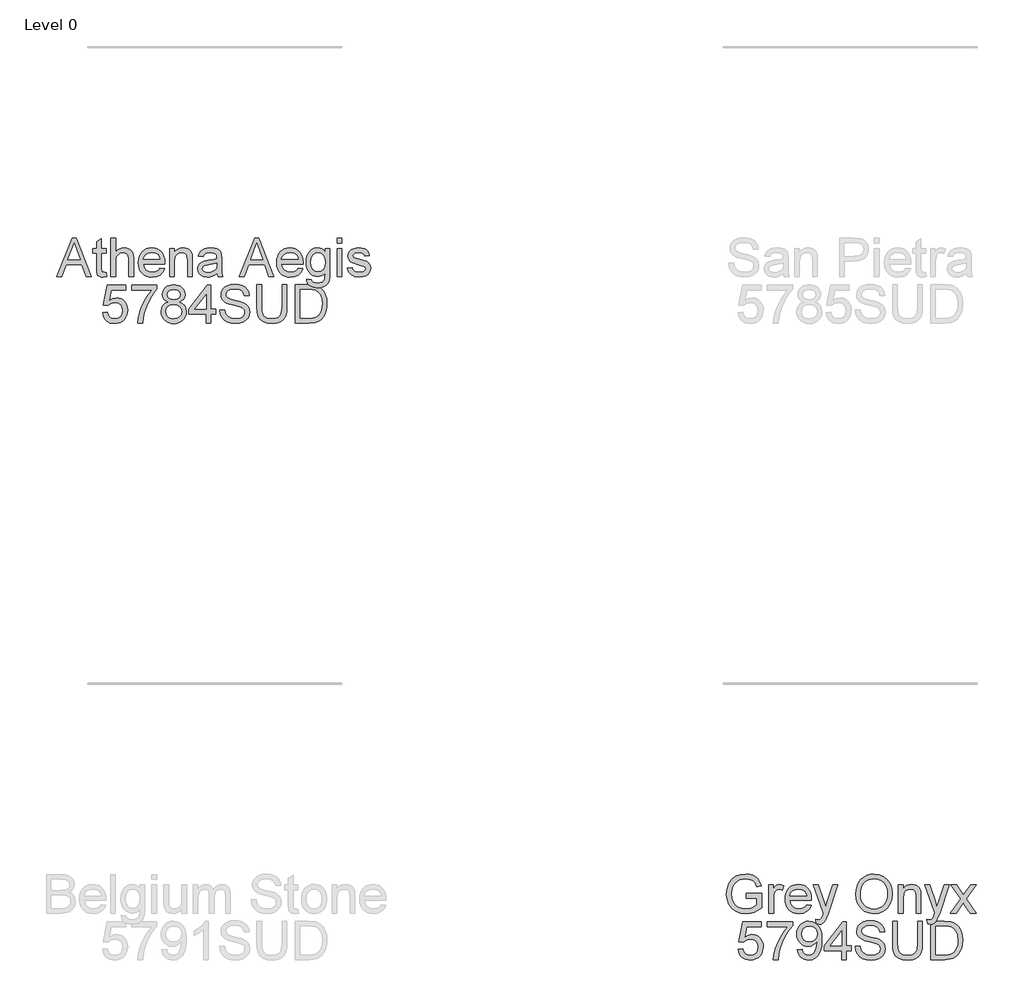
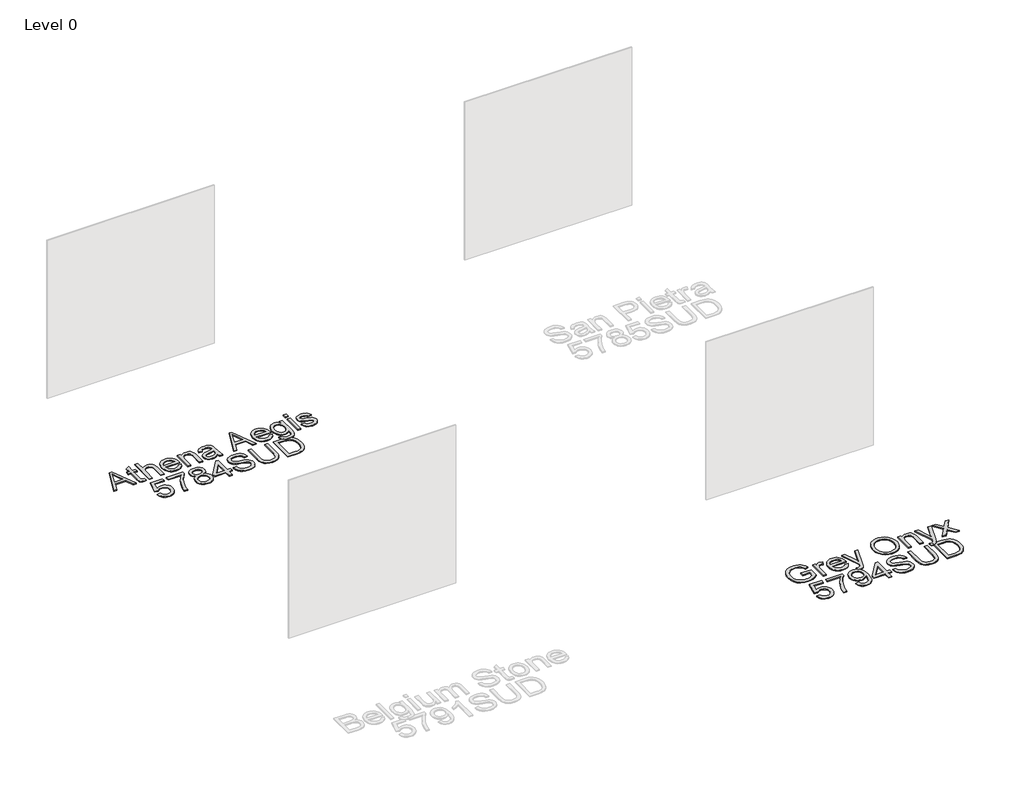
# One storey, part 2 of 12: 2 proxies.
"""IFC4 building model written with IfcOpenShell, lengths in millimetres."""

from ifc_helpers import new_model, si_unit, origin, origin_with_axes, place, context, project, spatial, polyline, outline, extrude, element, save

model = new_model("IFC4")

# Units and contexts
model_context = context("Model", 3, world=origin())
ifc_project = project(units=[si_unit("LENGTHUNIT", "METRE", prefix="MILLI")], contexts=[model_context])

# Site, building, storey
site = spatial("IfcSite", under=ifc_project)
building = spatial("IfcBuilding", under=site)
storey = spatial("IfcBuildingStorey", under=building, Name="Level 0", Elevation=0.0)

# Proxies
placement = place(None, origin())
element("IfcBuildingElementProxy", 1, Name="300mm Arial", ObjectType="300mm Arial", at=placement, inside=storey, context=model_context, shape_type="SweptSolid", body=[
    extrude(outline(polyline([(-10693.5841652, -17012.860494), (-10573.2867528, -16711.4915635), (-10541.2074428, -16711.4915635), (-10420.9100304, -17012.860494), (-10460.7148623, -17012.860494), (-10495.2221934, -16918.6827032), (-10619.3455786, -16918.6827032), (-10653.7793333, -17012.860494), (-10693.5841652, -17012.860494)]), holes=[polyline([(-10605.5132156, -16881.0115869), (-10508.98098, -16881.0115869), (-10536.1306713, -16806.9201531), (-10557.2470978, -16749.1626798), (-10576.0090796, -16800.44543), (-10605.5132156, -16881.0115869)])]), origin_with_axes(), (0.0, 0.0, 1.0), 10.0),
    extrude(outline(polyline([(-10305.3215075, -16981.4433716), (-10300.612618, -17013.96414), (-10328.7923788, -17017.5693835), (-10346.8737789, -17016.005885), (-10360.356654, -17011.3153896), (-10369.8847977, -17004.0865084), (-10376.1020034, -16994.9078526), (-10379.5233059, -16979.1441091), (-10380.6637401, -16952.1599648), (-10380.6637401, -16829.213802), (-10408.9170773, -16829.213802), (-10408.9170773, -16791.5426857), (-10380.6637401, -16791.5426857), (-10380.6637401, -16737.758338), (-10342.9926238, -16715.6118419), (-10342.9926238, -16791.5426857), (-10305.3215075, -16791.5426857), (-10305.3215075, -16829.213802), (-10342.9926238, -16829.213802), (-10342.9926238, -16951.0563188), (-10341.006061, -16970.4804881), (-10334.5681261, -16977.3598814), (-10321.7290445, -16979.8982672), (-10305.3215075, -16981.4433716)])), origin_with_axes(), (0.0, 0.0, 1.0), 10.0),
    extrude(outline(polyline([(-10267.6503912, -17012.860494), (-10267.6503912, -16711.4915635), (-10229.9792749, -16711.4915635), (-10229.9792749, -16822.2976205), (-10216.1423133, -16806.7821973), (-10200.6038976, -16795.6997522), (-10183.3640276, -16789.0502852), (-10164.4227033, -16786.8337961), (-10141.6692019, -16789.2526203), (-10122.1162739, -16796.5090926), (-10106.7204124, -16808.0329961), (-10096.4381106, -16823.2541137), (-10090.6439692, -16844.1682051), (-10088.7125887, -16872.7710302), (-10088.7125887, -17012.860494), (-10126.383705, -17012.860494), (-10126.383705, -16876.6705794), (-10129.3819433, -16853.0893435), (-10138.3766581, -16836.9393239), (-10152.8712087, -16827.6135153), (-10172.3689544, -16824.5049125), (-10188.2890478, -16826.6018398), (-10203.2342538, -16832.8926219), (-10215.613483, -16842.7702535), (-10223.8356456, -16855.6277292), (-10228.4433676, -16872.7158479), (-10229.9792749, -16895.2854083), (-10229.9792749, -17012.860494), (-10267.6503912, -17012.860494)])), origin_with_axes(), (0.0, 0.0, 1.0), 10.0),
    extrude(outline(polyline([(-9881.9629075, -16946.9360404), (-9845.0275551, -16951.64493), (-9858.3356863, -16979.4752029), (-9879.5716745, -17000.2789297), (-9908.2572731, -17013.2467701), (-9943.9142354, -17017.5693835), (-9967.2885377, -17015.7046817), (-9988.1152572, -17010.1105761), (-10006.3943938, -17000.7870668), (-10022.1259476, -16987.7341537), (-10034.7764897, -16971.3151204), (-10043.8125912, -16951.8932503), (-10049.2342521, -16929.4685435), (-10051.0414724, -16904.0409998), (-10049.215858, -16877.7512327), (-10043.7390148, -16854.5792656), (-10034.6109428, -16834.5250983), (-10021.831642, -16817.5887309), (-10006.1414749, -16804.133447), (-9988.2808041, -16794.5225298), (-9968.2496294, -16788.7559796), (-9946.047951, -16786.8337961), (-9924.5613432, -16788.751381), (-9905.1302761, -16794.5041357), (-9887.7547496, -16804.0920602), (-9872.4347638, -16817.5151545), (-9859.9290752, -16834.4147337), (-9850.9964405, -16854.4321128), (-9845.6368597, -16877.5672917), (-9843.8503328, -16903.8202706), (-9844.0710619, -16913.9738137), (-10013.3703561, -16913.9738137), (-10006.8496478, -16942.1719686), (-9991.7021066, -16962.902119), (-9969.8407191, -16975.6492302), (-9943.1784715, -16979.8982672), (-9923.1289027, -16977.9300985), (-9906.2431191, -16972.0255925), (-9892.5211207, -16961.8168672), (-9881.9629075, -16946.9360404)]), holes=[polyline([(-10013.3703561, -16876.3026974), (-9881.5214491, -16876.3026974), (-9886.6166147, -16856.4002814), (-9896.6046109, -16842.1632482), (-9918.567166, -16828.9194964), (-9946.1951038, -16824.5049125), (-9971.5881585, -16828.0273826), (-9992.5850234, -16838.5947929), (-10007.1807416, -16855.0667092), (-10013.3703561, -16876.3026974)])]), origin_with_axes(), (0.0, 0.0, 1.0), 10.0),
    extrude(outline(polyline([(-9806.1792164, -17012.860494), (-9806.1792164, -16791.5426857), (-9768.5081001, -16791.5426857), (-9768.5081001, -16822.4447733), (-9755.4206982, -16806.8649708), (-9739.7029399, -16795.7365404), (-9721.3548254, -16789.0594822), (-9700.3763546, -16786.8337961), (-9681.8075109, -16788.6272209), (-9664.8021657, -16794.0074951), (-9650.6203148, -16802.303234), (-9640.521954, -16812.8430532), (-9629.2279768, -16840.5445674), (-9627.241414, -16876.964885), (-9627.241414, -17012.860494), (-9664.9125303, -17012.860494), (-9664.9125303, -16882.0416565), (-9669.2535378, -16848.7115477), (-9675.2592114, -16838.7879309), (-9684.594217, -16831.0900002), (-9696.5595789, -16826.1511844), (-9710.4563213, -16824.5049125), (-9732.520044, -16828.2021265), (-9751.328011, -16839.2937687), (-9758.8443, -16848.3482643), (-9764.2130778, -16860.7228949), (-9768.5081001, -16895.4325611), (-9768.5081001, -17012.860494), (-9806.1792164, -17012.860494)])), origin_with_axes(), (0.0, 0.0, 1.0), 10.0),
    extrude(outline(polyline([(-9434.1769429, -16984.6071568), (-9452.1755695, -17000.0398064), (-9470.707625, -17010.1381672), (-9490.1961737, -17015.7115794), (-9511.0642799, -17017.5693835), (-9542.5457817, -17013.0996173), (-9565.7683326, -16999.6903186), (-9580.0881393, -16979.3280501), (-9584.8614081, -16953.9993748), (-9583.0587864, -16938.3827841), (-9577.650921, -16924.2009331), (-9569.3091968, -16912.0608273), (-9558.7049983, -16902.5694718), (-9532.3278592, -16890.2086368), (-9499.7335145, -16884.5432541), (-9461.2162696, -16878.5835657), (-9434.3976721, -16871.5938078), (-9434.1769429, -16863.2060983), (-9436.770511, -16846.3938912), (-9444.5512152, -16835.3942195), (-9461.9520336, -16827.2272392), (-9486.195457, -16824.5049125), (-9508.6362587, -16826.3167313), (-9524.3080317, -16831.7521878), (-9534.9950037, -16841.8045633), (-9542.4814023, -16857.4671392), (-9580.1525186, -16852.7582497), (-9573.6134161, -16832.156858), (-9563.8553462, -16815.9700502), (-9549.9678009, -16803.590821), (-9531.0402723, -16794.4121652), (-9507.8912977, -16788.7283884), (-9481.3394147, -16786.8337961), (-9455.8727836, -16788.5076592), (-9435.6852591, -16793.5292485), (-9420.4641416, -16801.0800264), (-9409.8967312, -16810.3414556), (-9402.8885792, -16821.7917827), (-9398.3452366, -16835.9092543), (-9396.5058266, -16868.8714811), (-9396.5058266, -16915.7396473), (-9394.5928402, -16981.1858542), (-9387.0880475, -17012.860494), (-9424.7591638, -17012.860494), (-9434.1769429, -16984.6071568)]), holes=[polyline([(-9434.1769429, -16909.2649241), (-9494.9510485, -16920.8164188), (-9527.3614523, -16926.9232599), (-9542.0399439, -16936.8560738), (-9547.1902918, -16951.3506244), (-9544.3851916, -16962.5526311), (-9535.969891, -16971.7312869), (-9522.1283309, -16977.8565221), (-9503.0444524, -16979.8982672), (-9482.8109427, -16977.64499), (-9464.9318777, -16970.8851583), (-9450.4373271, -16960.9247533), (-9440.3573604, -16949.069756), (-9435.8875942, -16936.8560738), (-9434.3976721, -16919.933502), (-9434.1769429, -16909.2649241)])]), origin_with_axes(), (0.0, 0.0, 1.0), 10.0),
    extrude(outline(polyline([(-9257.372856, -17012.860494), (-9137.0754436, -16711.4915635), (-9104.9961336, -16711.4915635), (-8984.6987212, -17012.860494), (-9024.5035531, -17012.860494), (-9059.0108842, -16918.6827032), (-9183.1342694, -16918.6827032), (-9217.5680242, -17012.860494), (-9257.372856, -17012.860494)]), holes=[polyline([(-9169.3019064, -16881.0115869), (-9072.7696709, -16881.0115869), (-9099.9193621, -16806.9201531), (-9121.0357886, -16749.1626798), (-9139.7977704, -16800.44543), (-9169.3019064, -16881.0115869)])]), origin_with_axes(), (0.0, 0.0, 1.0), 10.0),
    extrude(outline(polyline([(-8794.2094241, -16946.9360404), (-8757.2740718, -16951.64493), (-8770.582203, -16979.4752029), (-8791.8181911, -17000.2789297), (-8820.5037897, -17013.2467701), (-8856.1607521, -17017.5693835), (-8879.5350544, -17015.7046817), (-8900.3617738, -17010.1105761), (-8918.6409105, -17000.7870668), (-8934.3724643, -16987.7341537), (-8947.0230064, -16971.3151204), (-8956.0591079, -16951.8932503), (-8961.4807688, -16929.4685435), (-8963.2879891, -16904.0409998), (-8961.4623747, -16877.7512327), (-8955.9855315, -16854.5792656), (-8946.8574595, -16834.5250983), (-8934.0781587, -16817.5887309), (-8918.3879916, -16804.133447), (-8900.5273207, -16794.5225298), (-8880.4961461, -16788.7559796), (-8858.2944677, -16786.8337961), (-8836.8078599, -16788.751381), (-8817.3767928, -16794.5041357), (-8800.0012663, -16804.0920602), (-8784.6812804, -16817.5151545), (-8772.1755919, -16834.4147337), (-8763.2429572, -16854.4321128), (-8757.8833764, -16877.5672917), (-8756.0968494, -16903.8202706), (-8756.3175786, -16913.9738137), (-8925.6168728, -16913.9738137), (-8919.0961644, -16942.1719686), (-8903.9486233, -16962.902119), (-8882.0872357, -16975.6492302), (-8855.4249881, -16979.8982672), (-8835.3754194, -16977.9300985), (-8818.4896358, -16972.0255925), (-8804.7676374, -16961.8168672), (-8794.2094241, -16946.9360404)]), holes=[polyline([(-8925.6168728, -16876.3026974), (-8793.7679657, -16876.3026974), (-8798.8631314, -16856.4002814), (-8808.8511275, -16842.1632482), (-8830.8136826, -16828.9194964), (-8858.4416205, -16824.5049125), (-8883.8346752, -16828.0273826), (-8904.8315401, -16838.5947929), (-8919.4272582, -16855.0667092), (-8925.6168728, -16876.3026974)])]), origin_with_axes(), (0.0, 0.0, 1.0), 10.0),
    extrude(outline(polyline([(-8727.8435122, -17031.6960521), (-8690.1723959, -17036.4049417), (-8686.0153293, -17048.1771655), (-8677.9587136, -17056.2705694), (-8662.1213937, -17062.5613515), (-8641.3912433, -17064.6582789), (-8619.2815354, -17062.28544), (-8602.8372102, -17055.1669234), (-8591.4328684, -17043.7625816), (-8584.4431105, -17028.532267), (-8581.8679365, -16984.6071568), (-8594.4035155, -16996.9679918), (-8608.3922284, -17005.7971597), (-8623.8340751, -17011.0946604), (-8640.7290557, -17012.860494), (-8661.3833305, -17010.8049533), (-8679.5681974, -17004.6383314), (-8695.2836563, -16994.3606281), (-8708.5297074, -16979.9718436), (-8719.0396362, -16962.708981), (-8726.5467282, -16943.8090435), (-8731.0509833, -16923.2720311), (-8732.5524017, -16901.0979438), (-8729.8576661, -16870.6832999), (-8721.7734593, -16842.7150712), (-8708.5848897, -16819.0142737), (-8690.5770661, -16801.4019232), (-8668.3661906, -16790.4758279), (-8642.5684657, -16786.8337961), (-8624.9515167, -16788.8939353), (-8608.9624454, -16795.0743528), (-8594.6012521, -16805.3750487), (-8581.8679365, -16819.7960229), (-8581.8679365, -16791.5426857), (-8544.1968202, -16791.5426857), (-8544.1968202, -16982.620594), (-8546.7719942, -17026.7388422), (-8554.4975161, -17055.7923228), (-8567.8056472, -17075.0601423), (-8587.128649, -17089.8214074), (-8612.0434572, -17099.2023982), (-8642.1270073, -17102.3293952), (-8677.1769644, -17097.9240083), (-8704.7773111, -17084.7078476), (-8715.1722767, -17074.7865301), (-8722.4816321, -17062.644125), (-8726.7053773, -17048.2806323), (-8727.8435122, -17031.6960521)]), holes=[polyline([(-8694.8812854, -16898.5227699), (-8690.8621746, -16933.0760863), (-8678.8048422, -16956.8320661), (-8660.6774569, -16970.6000498), (-8638.4481874, -16975.1893777), (-8616.3844647, -16970.6276409), (-8598.1651089, -16956.9424307), (-8585.9422296, -16933.4899535), (-8581.8679365, -16899.6264159), (-8586.0617912, -16866.9676917), (-8598.6433555, -16843.4508352), (-8617.1294257, -16829.2413931), (-8639.0367985, -16824.5049125), (-8660.5486982, -16829.1678167), (-8678.584113, -16843.1565296), (-8690.8069923, -16866.3238983), (-8694.8812854, -16898.5227699)])]), origin_with_axes(), (0.0, 0.0, 1.0), 10.0),
    extrude(outline(polyline([(-8487.6901457, -16749.1626798), (-8487.6901457, -16711.4915635), (-8450.0190294, -16711.4915635), (-8450.0190294, -16749.1626798), (-8487.6901457, -16749.1626798)])), origin_with_axes(), (0.0, 0.0, 1.0), 10.0),
    extrude(outline(polyline([(-8487.6901457, -17012.860494), (-8487.6901457, -16791.5426857), (-8450.0190294, -16791.5426857), (-8450.0190294, -17012.860494), (-8487.6901457, -17012.860494)])), origin_with_axes(), (0.0, 0.0, 1.0), 10.0),
    extrude(outline(polyline([(-8407.6390236, -16946.9360404), (-8369.9679073, -16942.2271509), (-8364.0266131, -16958.3403823), (-8352.5303007, -16970.1861825), (-8335.4053938, -16977.470246), (-8312.578316, -16979.8982672), (-8290.0271497, -16977.6725811), (-8274.1714357, -16970.9955229), (-8264.7904449, -16961.3202265), (-8261.6634479, -16950.0998256), (-8264.808839, -16940.4981055), (-8274.2450121, -16933.1772538), (-8313.0197744, -16922.4350996), (-8369.7471781, -16904.0042116), (-8384.1037729, -16894.7427824), (-8394.5056364, -16882.4831149), (-8400.8240096, -16868.0069584), (-8402.930134, -16852.0960621), (-8401.2378769, -16837.5003439), (-8396.1611053, -16824.0266659), (-8388.1596719, -16812.2084568), (-8377.6934292, -16802.5791455), (-8353.7443113, -16791.4323211), (-8321.3339075, -16786.8337961), (-8296.8145725, -16788.6824032), (-8275.4958109, -16794.2282242), (-8258.3525099, -16802.9286334), (-8246.3595569, -16814.2410048), (-8238.4133058, -16829.0022698), (-8233.4101107, -16848.0493601), (-8271.081227, -16852.7582497), (-8275.8361018, -16840.9032524), (-8285.2446838, -16831.972917), (-8299.3989436, -16826.3719136), (-8318.3908516, -16824.5049125), (-8340.0223129, -16826.2891401), (-8354.4432871, -16831.6418232), (-8362.5550851, -16839.3673451), (-8365.2590177, -16848.2700893), (-8360.7708574, -16859.2329728), (-8346.7177652, -16867.5471059), (-8314.2705732, -16875.5669334), (-8258.9779093, -16893.2988455), (-8244.3729941, -16901.7785255), (-8233.2997461, -16913.3852025), (-8226.3191852, -16928.1556646), (-8223.9923316, -16946.1267001), (-8226.7238554, -16964.7047408), (-8234.9184268, -16982.1791356), (-8248.2633462, -16997.1795239), (-8266.4459138, -17008.3355454), (-8288.4084689, -17015.260924), (-8313.0933508, -17017.5693835), (-8351.0771668, -17013.1180114), (-8378.7970752, -16999.763895), (-8397.3015395, -16977.654187), (-8407.6390236, -16946.9360404)])), origin_with_axes(), (0.0, 0.0, 1.0), 10.0),
    extrude(outline(polyline([(-10333.5748447, -17298.7338254), (-10295.9037284, -17294.0249358), (-10288.9875469, -17316.6404815), (-10276.9210175, -17332.8364863), (-10259.7593224, -17342.5761621), (-10237.557644, -17345.8227207), (-10210.5551055, -17341.3069693), (-10190.3215958, -17327.7597148), (-10177.6848493, -17306.7444558), (-10173.4726004, -17279.8246908), (-10177.4181348, -17254.4776213), (-10189.254738, -17235.0902402), (-10209.0743805, -17222.7845875), (-10236.9690328, -17218.6827032), (-10255.2435709, -17220.3197781), (-10270.0416242, -17225.2310027), (-10291.1948389, -17242.2271509), (-10328.8659552, -17237.5182614), (-10295.9037284, -17082.1249066), (-10149.9281527, -17082.1249066), (-10149.9281527, -17119.7960229), (-10265.4430992, -17119.7960229), (-10281.5563306, -17202.790201), (-10254.6457627, -17186.4562404), (-10226.4476077, -17181.0115869), (-10208.1017925, -17182.6992456), (-10191.2504978, -17187.7622215), (-10175.8937238, -17196.2005148), (-10162.0314704, -17208.0141254), (-10150.5558514, -17222.4810848), (-10142.3589807, -17238.8794248), (-10137.4408583, -17257.2091452), (-10135.8014841, -17277.470246), (-10141.7059901, -17315.1413624), (-10149.0866227, -17331.9351754), (-10159.4195082, -17347.3678251), (-10175.0728871, -17363.1729553), (-10193.3382282, -17374.4623341), (-10214.2155314, -17381.2359613), (-10237.7047968, -17383.4938371), (-10274.7045285, -17377.6904986), (-10290.3831992, -17370.4363255), (-10304.1810733, -17360.2804832), (-10315.6612908, -17347.7288093), (-10324.3869919, -17333.2871418), (-10333.5748447, -17298.7338254)])), origin_with_axes(), (0.0, 0.0, 1.0), 10.0),
    extrude(outline(polyline([(-10102.8392574, -17119.7960229), (-10102.8392574, -17082.1249066), (-9905.0658967, -17082.1249066), (-9905.0658967, -17112.5855358), (-9933.2548546, -17148.2608923), (-9961.167901, -17193.6299393), (-9985.7884035, -17244.5540045), (-10004.0997299, -17296.8944154), (-10013.0760505, -17336.0554538), (-10018.0792457, -17378.7849475), (-10055.750362, -17378.7849475), (-10051.6760689, -17339.9550029), (-10040.7775648, -17293.8042066), (-10023.3491552, -17244.8850983), (-9999.6851459, -17197.7502177), (-9972.0572081, -17155.1402856), (-9942.7370131, -17119.7960229), (-10102.8392574, -17119.7960229)])), origin_with_axes(), (0.0, 0.0, 1.0), 10.0),
    extrude(outline(polyline([(-9817.2156763, -17212.7965913), (-9837.3848067, -17202.8637774), (-9851.5390665, -17189.3992964), (-9859.8991848, -17172.6790597), (-9862.6858909, -17152.9789789), (-9861.1683777, -17137.6153071), (-9856.615838, -17123.5300252), (-9849.0282718, -17110.7231332), (-9838.4056792, -17099.1946312), (-9825.2584964, -17089.6664875), (-9810.0971597, -17082.8606706), (-9773.7320245, -17077.4160171), (-9737.1461601, -17082.9894293), (-9721.8192764, -17089.9561946), (-9708.4697585, -17099.709666), (-9697.6540279, -17111.4634957), (-9689.928506, -17124.4313361), (-9685.2931928, -17138.613187), (-9683.7480885, -17154.0090485), (-9686.4980064, -17173.0745329), (-9694.7477601, -17189.509661), (-9708.5893202, -17202.8913686), (-9728.1146571, -17212.7965913), (-9704.9288943, -17224.7435591), (-9688.0523078, -17242.3375155), (-9677.760809, -17264.732332), (-9674.3303094, -17291.0818799), (-9676.0317636, -17309.8714528), (-9681.1361263, -17327.0975272), (-9689.6433974, -17342.7601031), (-9701.553577, -17356.8591806), (-9716.2412657, -17368.5118428), (-9733.081064, -17376.8351729), (-9752.072972, -17381.829171), (-9773.2169897, -17383.4938371), (-9794.3610074, -17381.8222732), (-9813.3529154, -17376.8075818), (-9830.1927137, -17368.4497627), (-9844.8804023, -17356.748816), (-9856.7905819, -17342.5508703), (-9865.2978531, -17326.702054), (-9870.4022158, -17309.2023674), (-9872.10367, -17290.0518103), (-9868.5352146, -17262.6813898), (-9857.8298486, -17240.1670117), (-9840.5393948, -17223.2812282), (-9817.2156763, -17212.7965913)]), holes=[polyline([(-9825.0147746, -17154.0826249), (-9821.6762455, -17170.52695), (-9811.6606582, -17183.6603373), (-9795.2623182, -17192.268776), (-9772.7755313, -17195.1382555), (-9750.8129762, -17192.2871701), (-9734.6629566, -17183.7339137), (-9724.7301427, -17171.0419848), (-9721.4192048, -17155.774882), (-9724.8405073, -17139.9283651), (-9735.104415, -17126.822569), (-9751.4751638, -17118.0209923), (-9773.2169897, -17115.0871334), (-9795.0967713, -17117.9566129), (-9811.439929, -17126.5650516), (-9821.6210632, -17139.1834041), (-9825.0147746, -17154.0826249)]), polyline([(-9834.4325537, -17288.7274351), (-9828.1417716, -17317.0911369), (-9819.4321653, -17329.2588339), (-9805.8849109, -17338.317928), (-9789.6613149, -17343.9465226), (-9772.9226841, -17345.8227207), (-9747.281309, -17341.8771864), (-9728.0410807, -17330.0405832), (-9716.0113394, -17312.1155329), (-9712.0014257, -17289.9046575), (-9716.1400981, -17267.316703), (-9728.5561155, -17248.9961796), (-9748.2378022, -17236.8560738), (-9774.1734829, -17232.8093718), (-9799.456173, -17236.8008915), (-9818.5032633, -17248.7754504), (-9830.4502311, -17266.7464859), (-9834.4325537, -17288.7274351)])]), origin_with_axes(), (0.0, 0.0, 1.0), 10.0),
    extrude(outline(polyline([(-9518.9369546, -17378.7849475), (-9518.9369546, -17308.1516044), (-9655.4947512, -17308.1516044), (-9655.4947512, -17270.4804881), (-9509.5191755, -17082.1249066), (-9481.2658383, -17082.1249066), (-9481.2658383, -17270.4804881), (-9443.594722, -17270.4804881), (-9443.594722, -17308.1516044), (-9481.2658383, -17308.1516044), (-9481.2658383, -17378.7849475), (-9518.9369546, -17378.7849475)]), holes=[polyline([(-9518.9369546, -17270.4804881), (-9518.9369546, -17154.0826249), (-9609.1416198, -17270.4804881), (-9518.9369546, -17270.4804881)])]), origin_with_axes(), (0.0, 0.0, 1.0), 10.0),
    extrude(outline(polyline([(-9410.6324952, -17275.1893777), (-9372.9613789, -17275.1893777), (-9368.6387655, -17296.0942721), (-9360.8212731, -17312.8972822), (-9348.6259849, -17326.2330045), (-9331.1699843, -17336.7360355), (-9309.8328286, -17343.5510494), (-9285.9940753, -17345.8227207), (-9265.0064074, -17344.1028724), (-9246.6307018, -17338.9433274), (-9231.740678, -17330.7763471), (-9221.2100559, -17320.0341929), (-9214.9468649, -17307.700949), (-9212.8591346, -17294.7606998), (-9214.4226331, -17282.1515444), (-9219.1131285, -17271.2530403), (-9228.6412722, -17261.9548229), (-9244.7177154, -17254.1465276), (-9299.5689209, -17239.7623415), (-9335.5753712, -17230.2433949), (-9358.6139811, -17221.1843008), (-9377.3667658, -17208.510766), (-9390.6565029, -17193.1516928), (-9398.5751628, -17175.4381747), (-9401.2147162, -17155.7013056), (-9397.9497634, -17133.637583), (-9388.1549053, -17113.0637824), (-9372.0876592, -17095.6261758), (-9350.0055424, -17082.9710352), (-9323.4996447, -17075.2731044), (-9294.1610556, -17072.7071275), (-9262.3760512, -17075.3926661), (-9234.5641723, -17083.4492818), (-9211.7187004, -17096.7114277), (-9194.8329169, -17115.013557), (-9184.1459449, -17137.2152354), (-9179.8969079, -17162.1760288), (-9217.5680242, -17162.1760288), (-9224.4842057, -17139.6984389), (-9238.9051799, -17123.4748429), (-9261.4379521, -17113.6523936), (-9292.6895276, -17110.3782438), (-9324.6768671, -17113.6156054), (-9346.6210281, -17123.3276901), (-9359.3129569, -17137.6199056), (-9363.5435998, -17154.5976597), (-9360.5453616, -17169.0738162), (-9351.5506468, -17180.7172813), (-9330.2870675, -17191.1283418), (-9290.0407772, -17201.7601314), (-9248.5069, -17211.8584922), (-9223.3805597, -17220.669266), (-9201.9054482, -17234.3360821), (-9186.923454, -17251.2034716), (-9178.1218772, -17271.0874934), (-9175.1880183, -17293.8042066), (-9178.5633356, -17317.0267576), (-9188.6892875, -17338.869751), (-9205.1520068, -17357.668521), (-9227.5376262, -17371.7584014), (-9254.4573912, -17380.5599781), (-9284.5225473, -17383.4938371), (-9321.4303085, -17380.3300519), (-9351.8081642, -17370.8386964), (-9376.0056024, -17354.9829824), (-9394.372111, -17332.7261217), (-9406.162729, -17305.6132187), (-9410.6324952, -17275.1893777)])), origin_with_axes(), (0.0, 0.0, 1.0), 10.0),
    extrude(outline(polyline([(-8920.9079833, -17077.4160171), (-8883.2368669, -17077.4160171), (-8883.2368669, -17251.277048), (-8885.7936468, -17291.9923878), (-8893.4639864, -17323.3451308), (-8907.7929901, -17347.533372), (-8930.3257623, -17366.7552063), (-8961.1174853, -17379.3091794), (-9000.2233414, -17383.4938371), (-9038.4738719, -17379.8518053), (-9069.0540627, -17368.92571), (-9091.973111, -17351.0926303), (-9107.2402138, -17326.7296452), (-9115.8210613, -17294.052527), (-9118.6813439, -17251.277048), (-9118.6813439, -17077.4160171), (-9081.0102276, -17077.4160171), (-9081.0102276, -17249.9526728), (-9079.1524235, -17283.8070134), (-9073.5790113, -17307.3790523), (-9063.4806505, -17323.7038158), (-9048.0480008, -17335.8163305), (-9027.9248556, -17343.3211232), (-9003.7550086, -17345.8227207), (-8965.4400988, -17340.8747079), (-8951.0972995, -17334.6896919), (-8939.9642706, -17326.0306694), (-8931.6271449, -17313.8537754), (-8925.6720551, -17297.1151446), (-8920.9079833, -17249.9526728), (-8920.9079833, -17077.4160171)])), origin_with_axes(), (0.0, 0.0, 1.0), 10.0),
    extrude(outline(polyline([(-8817.3124134, -17378.7849475), (-8817.3124134, -17077.4160171), (-8713.3489616, -17077.4160171), (-8659.5646139, -17081.7570246), (-8635.5419196, -17090.12634), (-8615.2716217, -17103.3149095), (-8594.4311066, -17126.270746), (-8579.5870681, -17154.8183889), (-8570.7027179, -17188.406015), (-8567.7412679, -17226.4818015), (-8569.7462248, -17258.8278259), (-8575.7610954, -17287.2926953), (-8584.9213571, -17311.5269217), (-8596.3624871, -17331.1810173), (-8609.5326625, -17346.6964405), (-8623.8800603, -17358.5146496), (-8640.3519767, -17367.2794381), (-8659.8957077, -17373.6345996), (-8708.3457664, -17378.7849475), (-8817.3124134, -17378.7849475)]), holes=[polyline([(-8779.6412971, -17341.1138312), (-8712.9810796, -17341.1138312), (-8685.408324, -17339.7526678), (-8664.4942326, -17335.6691777), (-8648.712095, -17329.1024841), (-8636.535201, -17320.2917103), (-8623.447799, -17303.9853408), (-8613.6161527, -17282.8781114), (-8607.4633263, -17256.8780514), (-8605.4123842, -17225.8931903), (-8609.431495, -17184.8375597), (-8621.4888274, -17154.5240833), (-8639.303513, -17133.7019623), (-8660.5946835, -17121.1203981), (-8682.262933, -17116.5954496), (-8714.0111492, -17115.0871334), (-8779.6412971, -17115.0871334), (-8779.6412971, -17341.1138312)])]), origin_with_axes(), (0.0, 0.0, 1.0), 10.0),
])
element("IfcBuildingElementProxy", 2, Name="300mm Arial", ObjectType="300mm Arial", at=placement, inside=storey, context=model_context, shape_type="SweptSolid", body=[
    extrude(outline(polyline([(-5270.004836, -21905.1382555), (-5270.004836, -21867.4671392), (-5147.573708, -21867.4671392), (-5147.573708, -21980.1126061), (-5177.3261643, -22000.8059684), (-5208.0167198, -22015.6500069), (-5239.5717979, -22024.5895394), (-5271.9178223, -22027.5693835), (-5314.1782665, -22022.8329028), (-5352.3736147, -22008.6234608), (-5384.1034368, -21985.437698), (-5406.9673028, -21953.7722553), (-5420.7904687, -21915.7884393), (-5425.3981907, -21873.6475567), (-5420.8088628, -21831.2031715), (-5407.0408792, -21791.7202364), (-5384.6644568, -21758.6016598), (-5354.2498129, -21735.2503502), (-5317.2040959, -21721.399593), (-5274.9344547, -21716.782674), (-5243.9036084, -21719.4590155), (-5215.9997591, -21727.4880401), (-5192.5012966, -21740.2903335), (-5174.686611, -21757.2864817), (-5161.5072385, -21779.295022), (-5151.9147155, -21807.134492), (-5186.6427759, -21816.9201531), (-5194.3958889, -21797.0637224), (-5203.822865, -21782.0817281), (-5216.2940647, -21770.7877509), (-5233.1798482, -21761.9953712), (-5253.3121904, -21756.3391855), (-5275.5230659, -21754.4537903), (-5301.5231259, -21756.4863383), (-5323.7523955, -21762.5839824), (-5342.1281011, -21771.9833674), (-5356.5674694, -21783.9211381), (-5375.9548506, -21812.9470275), (-5384.7840185, -21841.3843058), (-5387.7270744, -21872.1024524), (-5384.1862102, -21908.1272967), (-5373.5636176, -21937.7693885), (-5356.1811933, -21960.8171955), (-5332.3608341, -21977.0591856), (-5304.484576, -21986.6884968), (-5274.9344547, -21989.8982672), (-5248.8424242, -21987.4794431), (-5223.3941872, -21980.2229707), (-5201.2936763, -21970.2257775), (-5185.2448243, -21959.5847908), (-5185.2448243, -21905.1382555), (-5270.004836, -21905.1382555)])), origin_with_axes(), (0.0, 0.0, 1.0), 10.0),
    extrude(outline(polyline([(-5091.0670335, -22022.860494), (-5091.0670335, -21801.5426857), (-5058.1048067, -21801.5426857), (-5058.1048067, -21834.2841833), (-5045.9279127, -21815.3014723), (-5034.7075119, -21804.1178596), (-5023.4503228, -21798.654812), (-5011.1630642, -21796.8337961), (-4992.4010824, -21799.7400639), (-4973.3447951, -21808.4588672), (-4985.9263593, -21842.2304343), (-4999.1701111, -21836.4362929), (-5012.4138629, -21834.5049125), (-5023.6618549, -21836.3627165), (-5033.7142305, -21841.9361288), (-5041.8352255, -21850.8020848), (-5047.2890761, -21862.5375205), (-5051.8692069, -21883.5803706), (-5053.3959172, -21906.5362071), (-5053.3959172, -22022.860494), (-5091.0670335, -22022.860494)])), origin_with_axes(), (0.0, 0.0, 1.0), 10.0),
    extrude(outline(polyline([(-4794.848451, -21956.9360404), (-4757.9130987, -21961.64493), (-4771.2212299, -21989.4752029), (-4792.457218, -22010.2789297), (-4821.1428166, -22023.2467701), (-4856.799779, -22027.5693835), (-4880.1740813, -22025.7046817), (-4901.0008007, -22020.1105761), (-4919.2799373, -22010.7870668), (-4935.0114912, -21997.7341537), (-4947.6620333, -21981.3151204), (-4956.6981348, -21961.8932503), (-4962.1197957, -21939.4685435), (-4963.927016, -21914.0409998), (-4962.1014016, -21887.7512327), (-4956.6245584, -21864.5792656), (-4947.4964864, -21844.5250983), (-4934.7171856, -21827.5887309), (-4919.0270185, -21814.133447), (-4901.1663476, -21804.5225298), (-4881.135173, -21798.7559796), (-4858.9334946, -21796.8337961), (-4837.4468868, -21798.751381), (-4818.0158196, -21804.5041357), (-4800.6402932, -21814.0920602), (-4785.3203073, -21827.5151545), (-4772.8146187, -21844.4147337), (-4763.8819841, -21864.4321128), (-4758.5224032, -21887.5672917), (-4756.7358763, -21913.8202706), (-4756.9566055, -21923.9738137), (-4926.2558997, -21923.9738137), (-4919.7351913, -21952.1719686), (-4904.5876502, -21972.902119), (-4882.7262626, -21985.6492302), (-4856.064015, -21989.8982672), (-4836.0144463, -21987.9300985), (-4819.1286627, -21982.0255925), (-4805.4066643, -21971.8168672), (-4794.848451, -21956.9360404)]), holes=[polyline([(-4926.2558997, -21886.3026974), (-4794.4069926, -21886.3026974), (-4799.5021582, -21866.4002814), (-4809.4901544, -21852.1632482), (-4831.4527095, -21838.9194964), (-4859.0806474, -21834.5049125), (-4884.4737021, -21838.0273826), (-4905.4705669, -21848.5947929), (-4920.0662851, -21865.0667092), (-4926.2558997, -21886.3026974)])]), origin_with_axes(), (0.0, 0.0, 1.0), 10.0),
    extrude(outline(polyline([(-4719.06476, -22107.6205057), (-4723.7736495, -22071.3473409), (-4704.6437858, -22074.6582789), (-4686.7647208, -22070.5012124), (-4675.8018374, -22058.9129295), (-4665.5011415, -22031.1746271), (-4662.5580855, -22022.0511536), (-4742.6092077, -21801.5426857), (-4702.8779522, -21801.5426857), (-4660.42437, -21924.4152721), (-4645.6355138, -21973.5643066), (-4630.8466575, -21930.1542312), (-4587.2158529, -21801.5426857), (-4547.778903, -21801.5426857), (-4624.8133928, -22028.1579947), (-4644.8261734, -22077.3070293), (-4655.0716869, -22092.9971964), (-4666.6783639, -22103.8681093), (-4680.161239, -22110.2140737), (-4696.0353471, -22112.3293952), (-4719.06476, -22107.6205057)])), origin_with_axes(), (0.0, 0.0, 1.0), 10.0),
    extrude(outline(polyline([(-4408.2780505, -21876.1491543), (-4405.7672558, -21840.8002931), (-4398.234872, -21809.5073309), (-4385.6808989, -21782.2702677), (-4368.1053366, -21759.0891034), (-4346.5612472, -21740.5800406), (-4322.1016931, -21727.3592814), (-4294.7266741, -21719.4268258), (-4264.4361903, -21716.782674), (-4224.90727, -21721.7490809), (-4189.4618397, -21736.6483017), (-4160.0312801, -21760.4318727), (-4138.5469716, -21792.0513302), (-4125.4135844, -21829.9799639), (-4121.0357886, -21872.6910636), (-4125.6435106, -21915.9723803), (-4139.4666766, -21954.4344429), (-4161.7419314, -21986.1090827), (-4191.7059199, -22009.028131), (-4226.8478475, -22022.9340704), (-4264.6569195, -22027.5693835), (-4304.7928452, -22022.4466267), (-4340.4406106, -22007.0783564), (-4369.7975938, -21982.853327), (-4391.0611731, -21951.1602931), (-4403.9738311, -21914.6939903), (-4408.2780505, -21876.1491543)]), holes=[polyline([(-4370.6069342, -21876.5170363), (-4368.7238382, -21901.4916252), (-4363.0745503, -21923.661114), (-4353.6590705, -21943.0255025), (-4340.4773988, -21959.5847908), (-4324.4538386, -21972.8469367), (-4306.5126935, -21982.3198981), (-4286.6539636, -21988.0036749), (-4264.8776487, -21989.8982672), (-4242.7288534, -21987.9852808), (-4222.6355986, -21982.2463217), (-4204.5978846, -21972.6813898), (-4188.6157111, -21959.2904852), (-4175.5306084, -21942.381709), (-4166.1841065, -21922.2631624), (-4160.5762053, -21898.9348454), (-4158.7069049, -21872.396758), (-4161.9074783, -21839.0482551), (-4171.5091984, -21810.2247008), (-4187.2637448, -21786.6526619), (-4208.9227973, -21769.0587055), (-4235.051616, -21758.1050191), (-4264.2154612, -21754.4537903), (-4285.2353187, -21756.2127261), (-4304.7376629, -21761.4895335), (-4322.722494, -21770.2842124), (-4339.1898118, -21782.5967629), (-4352.9348028, -21799.0203948), (-4362.7526536, -21820.1483176), (-4368.643364, -21845.9805314), (-4370.6069342, -21876.5170363)])]), origin_with_axes(), (0.0, 0.0, 1.0), 10.0),
    extrude(outline(polyline([(-4073.9468932, -22022.860494), (-4073.9468932, -21801.5426857), (-4036.2757769, -21801.5426857), (-4036.2757769, -21832.4447733), (-4023.188375, -21816.8649708), (-4007.4706167, -21805.7365404), (-3989.1225022, -21799.0594822), (-3968.1440314, -21796.8337961), (-3949.5751877, -21798.6272209), (-3932.5698425, -21804.0074951), (-3918.3879916, -21812.303234), (-3908.2896308, -21822.8430532), (-3896.9956536, -21850.5445674), (-3895.0090908, -21886.964885), (-3895.0090908, -22022.860494), (-3932.6802071, -22022.860494), (-3932.6802071, -21892.0416565), (-3937.0212146, -21858.7115477), (-3943.0268882, -21848.7879309), (-3952.3618938, -21841.0900002), (-3964.3272557, -21836.1511844), (-3978.2239981, -21834.5049125), (-4000.2877208, -21838.2021265), (-4019.0956878, -21849.2937687), (-4026.6119768, -21858.3482643), (-4031.9807546, -21870.7228949), (-4036.2757769, -21905.4325611), (-4036.2757769, -22022.860494), (-4073.9468932, -22022.860494)])), origin_with_axes(), (0.0, 0.0, 1.0), 10.0),
    extrude(outline(polyline([(-3843.2113059, -22107.6205057), (-3847.9201954, -22071.3473409), (-3828.7903317, -22074.6582789), (-3810.9112667, -22070.5012124), (-3799.9483832, -22058.9129295), (-3789.6476874, -22031.1746271), (-3786.7046314, -22022.0511536), (-3866.7557536, -21801.5426857), (-3827.0244981, -21801.5426857), (-3784.5709158, -21924.4152721), (-3769.7820596, -21973.5643066), (-3754.9932034, -21930.1542312), (-3711.3623988, -21801.5426857), (-3671.9254489, -21801.5426857), (-3748.9599387, -22028.1579947), (-3768.9727192, -22077.3070293), (-3779.2182328, -22092.9971964), (-3790.8249098, -22103.8681093), (-3804.3077849, -22110.2140737), (-3820.181893, -22112.3293952), (-3843.2113059, -22107.6205057)])), origin_with_axes(), (0.0, 0.0, 1.0), 10.0),
    extrude(outline(polyline([(-3664.2735034, -22022.860494), (-3583.7809229, -21911.6129786), (-3659.5646139, -21801.5426857), (-3614.2415521, -21801.5426857), (-3577.6740818, -21854.517693), (-3560.6043572, -21879.5336687), (-3545.815501, -21859.0794297), (-3504.1712591, -21801.5426857), (-3458.8481973, -21801.5426857), (-3538.4578611, -21911.6129786), (-3461.7912533, -22022.860494), (-3507.1143151, -22022.860494), (-3553.2467173, -21955.9795473), (-3561.7080032, -21943.765865), (-3618.9504416, -22022.860494), (-3664.2735034, -22022.860494)])), origin_with_axes(), (0.0, 0.0, 1.0), 10.0),
    extrude(outline(polyline([(-5333.5748447, -22308.7338254), (-5295.9037284, -22304.0249358), (-5288.9875469, -22326.6404815), (-5276.9210175, -22342.8364863), (-5259.7593224, -22352.5761621), (-5237.557644, -22355.8227207), (-5210.5551055, -22351.3069693), (-5190.3215958, -22337.7597148), (-5177.6848493, -22316.7444558), (-5173.4726004, -22289.8246908), (-5177.4181348, -22264.4776213), (-5189.254738, -22245.0902402), (-5209.0743805, -22232.7845875), (-5236.9690328, -22228.6827032), (-5255.2435709, -22230.3197781), (-5270.0416242, -22235.2310027), (-5291.1948389, -22252.2271509), (-5328.8659552, -22247.5182614), (-5295.9037284, -22092.1249066), (-5149.9281527, -22092.1249066), (-5149.9281527, -22129.7960229), (-5265.4430992, -22129.7960229), (-5281.5563306, -22212.790201), (-5254.6457627, -22196.4562404), (-5226.4476077, -22191.0115869), (-5208.1017925, -22192.6992456), (-5191.2504978, -22197.7622215), (-5175.8937238, -22206.2005148), (-5162.0314704, -22218.0141254), (-5150.5558514, -22232.4810848), (-5142.3589807, -22248.8794248), (-5137.4408583, -22267.2091452), (-5135.8014841, -22287.470246), (-5141.7059901, -22325.1413624), (-5149.0866227, -22341.9351754), (-5159.4195082, -22357.3678251), (-5175.0728871, -22373.1729553), (-5193.3382282, -22384.4623341), (-5214.2155314, -22391.2359613), (-5237.7047968, -22393.4938371), (-5274.7045285, -22387.6904986), (-5290.3831992, -22380.4363255), (-5304.1810733, -22370.2804832), (-5315.6612908, -22357.7288093), (-5324.3869919, -22343.2871418), (-5333.5748447, -22308.7338254)])), origin_with_axes(), (0.0, 0.0, 1.0), 10.0),
    extrude(outline(polyline([(-5102.8392574, -22129.7960229), (-5102.8392574, -22092.1249066), (-4905.0658967, -22092.1249066), (-4905.0658967, -22122.5855358), (-4933.2548546, -22158.2608923), (-4961.167901, -22203.6299393), (-4985.7884035, -22254.5540045), (-5004.0997299, -22306.8944154), (-5013.0760505, -22346.0554538), (-5018.0792457, -22388.7849475), (-5055.750362, -22388.7849475), (-5051.6760689, -22349.9550029), (-5040.7775648, -22303.8042066), (-5023.3491552, -22254.8850983), (-4999.6851459, -22207.7502177), (-4972.0572081, -22165.1402856), (-4942.7370131, -22129.7960229), (-5102.8392574, -22129.7960229)])), origin_with_axes(), (0.0, 0.0, 1.0), 10.0),
    extrude(outline(polyline([(-4867.3947804, -22313.4427149), (-4829.7236641, -22308.7338254), (-4823.2857292, -22330.1169663), (-4812.8010924, -22344.6758963), (-4798.5272709, -22353.0360146), (-4780.7217824, -22355.8227207), (-4764.7465067, -22354.029296), (-4750.224365, -22348.6490218), (-4738.1578355, -22340.2705094), (-4729.5493969, -22329.4823699), (-4717.22535, -22296.7408723), (-4711.7806965, -22253.0364913), (-4712.0014257, -22245.6788514), (-4725.0520395, -22261.6081418), (-4742.1309611, -22274.2264942), (-4762.0057859, -22282.4486568), (-4783.4441091, -22285.1893777), (-4801.3392689, -22283.5155146), (-4817.7950904, -22278.4939254), (-4832.8115736, -22270.12461), (-4846.3887185, -22258.4075684), (-4857.6390098, -22243.9544045), (-4865.6749321, -22227.3767221), (-4870.4964855, -22208.6745212), (-4872.10367, -22187.8478018), (-4870.4183106, -22166.326705), (-4865.3622324, -22147.0129003), (-4856.9354355, -22129.9063875), (-4845.1379197, -22115.0071667), (-4830.8020182, -22102.9360387), (-4814.760064, -22094.3138045), (-4797.012057, -22089.1404639), (-4777.5579972, -22087.4160171), (-4749.4610098, -22091.3523544), (-4723.8840141, -22103.1613665), (-4702.4916761, -22122.254442), (-4686.9486618, -22148.0429699), (-4677.4848975, -22183.6907352), (-4674.3303094, -22232.3615232), (-4677.4757004, -22283.96617), (-4686.9118736, -22323.8537754), (-4702.5560555, -22353.8269609), (-4724.3254725, -22375.6883485), (-4751.2820257, -22389.0424649), (-4782.487616, -22393.4938371), (-4814.6956846, -22388.2423216), (-4840.392242, -22372.4877751), (-4858.3632775, -22347.2234791), (-4867.3947804, -22313.4427149)]), holes=[polyline([(-4712.0014257, -22186.964885), (-4716.0665217, -22161.4338745), (-4728.2618099, -22141.788976), (-4747.1893385, -22129.262594), (-4771.4511561, -22125.0871334), (-4796.6142846, -22129.5844908), (-4816.7742179, -22143.0765629), (-4830.0179697, -22163.7239399), (-4834.4325537, -22189.6872117), (-4830.257093, -22212.964945), (-4817.7307111, -22231.4418182), (-4798.0674185, -22243.4991506), (-4772.4812257, -22247.5182614), (-4748.4125462, -22243.4991506), (-4729.0343621, -22231.4418182), (-4716.2596598, -22212.2843633), (-4712.0014257, -22186.964885)])]), origin_with_axes(), (0.0, 0.0, 1.0), 10.0),
    extrude(outline(polyline([(-4518.9369546, -22388.7849475), (-4518.9369546, -22318.1516044), (-4655.4947512, -22318.1516044), (-4655.4947512, -22280.4804881), (-4509.5191755, -22092.1249066), (-4481.2658383, -22092.1249066), (-4481.2658383, -22280.4804881), (-4443.594722, -22280.4804881), (-4443.594722, -22318.1516044), (-4481.2658383, -22318.1516044), (-4481.2658383, -22388.7849475), (-4518.9369546, -22388.7849475)]), holes=[polyline([(-4518.9369546, -22280.4804881), (-4518.9369546, -22164.0826249), (-4609.1416198, -22280.4804881), (-4518.9369546, -22280.4804881)])]), origin_with_axes(), (0.0, 0.0, 1.0), 10.0),
    extrude(outline(polyline([(-4410.6324952, -22285.1893777), (-4372.9613789, -22285.1893777), (-4368.6387655, -22306.0942721), (-4360.8212731, -22322.8972822), (-4348.6259849, -22336.2330045), (-4331.1699843, -22346.7360355), (-4309.8328286, -22353.5510494), (-4285.9940753, -22355.8227207), (-4265.0064074, -22354.1028724), (-4246.6307018, -22348.9433274), (-4231.740678, -22340.7763471), (-4221.2100559, -22330.0341929), (-4214.9468649, -22317.700949), (-4212.8591346, -22304.7606998), (-4214.4226331, -22292.1515444), (-4219.1131285, -22281.2530403), (-4228.6412722, -22271.9548229), (-4244.7177154, -22264.1465276), (-4299.5689209, -22249.7623415), (-4335.5753712, -22240.2433949), (-4358.6139811, -22231.1843008), (-4377.3667658, -22218.510766), (-4390.6565029, -22203.1516928), (-4398.5751628, -22185.4381747), (-4401.2147162, -22165.7013056), (-4397.9497634, -22143.637583), (-4388.1549053, -22123.0637824), (-4372.0876592, -22105.6261758), (-4350.0055424, -22092.9710352), (-4323.4996447, -22085.2731044), (-4294.1610556, -22082.7071275), (-4262.3760512, -22085.3926661), (-4234.5641723, -22093.4492818), (-4211.7187004, -22106.7114277), (-4194.8329169, -22125.013557), (-4184.1459449, -22147.2152354), (-4179.8969079, -22172.1760288), (-4217.5680242, -22172.1760288), (-4224.4842057, -22149.6984389), (-4238.9051799, -22133.4748429), (-4261.4379521, -22123.6523936), (-4292.6895276, -22120.3782438), (-4324.6768671, -22123.6156054), (-4346.6210281, -22133.3276901), (-4359.3129569, -22147.6199056), (-4363.5435998, -22164.5976597), (-4360.5453616, -22179.0738162), (-4351.5506468, -22190.7172813), (-4330.2870675, -22201.1283418), (-4290.0407772, -22211.7601314), (-4248.5069, -22221.8584922), (-4223.3805597, -22230.669266), (-4201.9054482, -22244.3360821), (-4186.923454, -22261.2034716), (-4178.1218772, -22281.0874934), (-4175.1880183, -22303.8042066), (-4178.5633356, -22327.0267576), (-4188.6892875, -22348.869751), (-4205.1520068, -22367.668521), (-4227.5376262, -22381.7584014), (-4254.4573912, -22390.5599781), (-4284.5225473, -22393.4938371), (-4321.4303085, -22390.3300519), (-4351.8081642, -22380.8386964), (-4376.0056024, -22364.9829824), (-4394.372111, -22342.7261217), (-4406.162729, -22315.6132187), (-4410.6324952, -22285.1893777)])), origin_with_axes(), (0.0, 0.0, 1.0), 10.0),
    extrude(outline(polyline([(-3920.9079833, -22087.4160171), (-3883.2368669, -22087.4160171), (-3883.2368669, -22261.277048), (-3885.7936468, -22301.9923878), (-3893.4639864, -22333.3451308), (-3907.7929901, -22357.533372), (-3930.3257623, -22376.7552063), (-3961.1174853, -22389.3091794), (-4000.2233414, -22393.4938371), (-4038.4738719, -22389.8518053), (-4069.0540627, -22378.92571), (-4091.973111, -22361.0926303), (-4107.2402138, -22336.7296452), (-4115.8210613, -22304.052527), (-4118.6813439, -22261.277048), (-4118.6813439, -22087.4160171), (-4081.0102276, -22087.4160171), (-4081.0102276, -22259.9526728), (-4079.1524235, -22293.8070134), (-4073.5790113, -22317.3790523), (-4063.4806505, -22333.7038158), (-4048.0480008, -22345.8163305), (-4027.9248556, -22353.3211232), (-4003.7550086, -22355.8227207), (-3965.4400988, -22350.8747079), (-3951.0972995, -22344.6896919), (-3939.9642706, -22336.0306694), (-3931.6271449, -22323.8537754), (-3925.6720551, -22307.1151446), (-3920.9079833, -22259.9526728), (-3920.9079833, -22087.4160171)])), origin_with_axes(), (0.0, 0.0, 1.0), 10.0),
    extrude(outline(polyline([(-3817.3124134, -22388.7849475), (-3817.3124134, -22087.4160171), (-3713.3489616, -22087.4160171), (-3659.5646139, -22091.7570246), (-3635.5419196, -22100.12634), (-3615.2716217, -22113.3149095), (-3594.4311066, -22136.270746), (-3579.5870681, -22164.8183889), (-3570.7027179, -22198.406015), (-3567.7412679, -22236.4818015), (-3569.7462248, -22268.8278259), (-3575.7610954, -22297.2926953), (-3584.9213571, -22321.5269217), (-3596.3624871, -22341.1810173), (-3609.5326625, -22356.6964405), (-3623.8800603, -22368.5146496), (-3640.3519767, -22377.2794381), (-3659.8957077, -22383.6345996), (-3708.3457664, -22388.7849475), (-3817.3124134, -22388.7849475)]), holes=[polyline([(-3779.6412971, -22351.1138312), (-3712.9810796, -22351.1138312), (-3685.408324, -22349.7526678), (-3664.4942326, -22345.6691777), (-3648.712095, -22339.1024841), (-3636.535201, -22330.2917103), (-3623.447799, -22313.9853408), (-3613.6161527, -22292.8781114), (-3607.4633263, -22266.8780514), (-3605.4123842, -22235.8931903), (-3609.431495, -22194.8375597), (-3621.4888274, -22164.5240833), (-3639.303513, -22143.7019623), (-3660.5946835, -22131.1203981), (-3682.262933, -22126.5954496), (-3714.0111492, -22125.0871334), (-3779.6412971, -22125.0871334), (-3779.6412971, -22351.1138312)])]), origin_with_axes(), (0.0, 0.0, 1.0), 10.0),
])

save(model, "model.ifc")
